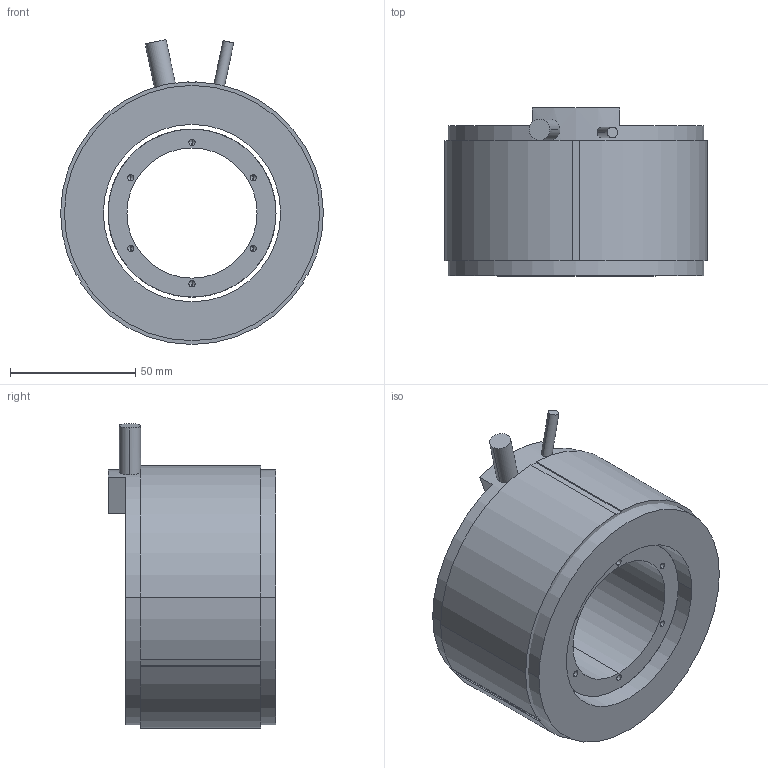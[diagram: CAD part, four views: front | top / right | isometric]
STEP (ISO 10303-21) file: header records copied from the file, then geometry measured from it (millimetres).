
FILE_DESCRIPTION (( 'STEP AP203' ), '1' );
FILE_NAME ('TMX105-60 3D.STEP', '2022-11-23T02:04:24', ( '' ), ( '' ), 'SwSTEP 2.0', 'SolidWorks 2021', '' );
FILE_SCHEMA (( 'CONFIG_CONTROL_DESIGN' ));
Length unit declared in the file: millimetre
Products named in the file (3): TMX150-60 KIT 3D; TM105-60 3D; TMX105-60 3D
Assembly tree (2 placements, depth 2):
  TMX105-60 3D
    TM105-60 3D
    TMX150-60 KIT 3D
Bounding box: 104.99 x 67 x 121.85 mm (x, y, z)
Volume: 383878.7 mm3; surface area: 98981 mm2
Topology: 3 solids, 3 shells, 234 faces, 559 edges, 338 vertices
Faces by surface type: plane 148, cylinder 62, cone 24
Entity records: 7054 total; most frequent: DIRECTION 1253, CARTESIAN_POINT 1236, ORIENTED_EDGE 1070, EDGE_CURVE 535, AXIS2_PLACEMENT_3D 483, VERTEX_POINT 338, LINE 287, VECTOR 287
